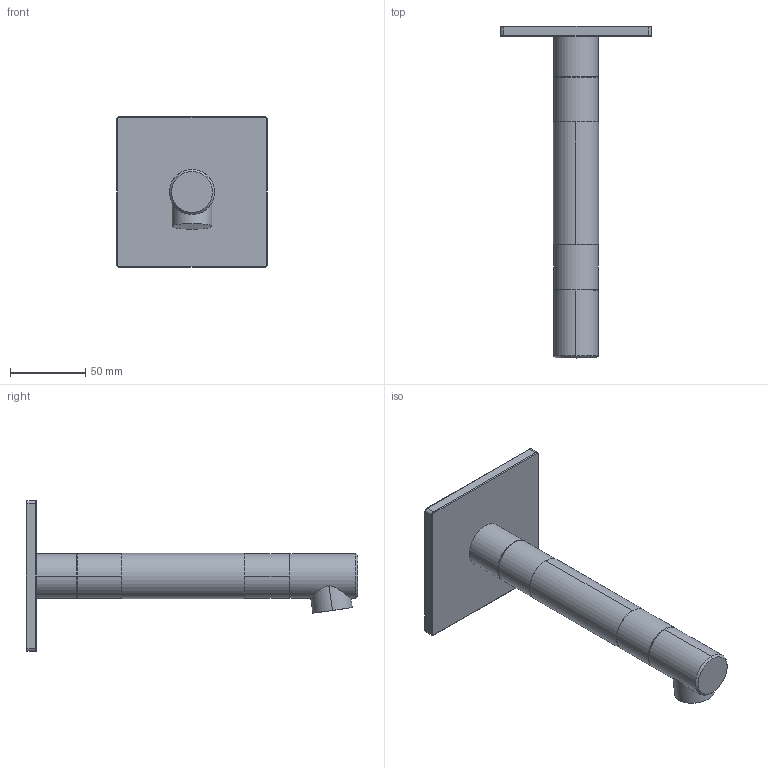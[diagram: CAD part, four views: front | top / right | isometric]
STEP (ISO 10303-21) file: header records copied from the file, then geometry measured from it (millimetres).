
FILE_DESCRIPTION((''),'2;1');
FILE_NAME('BATH_SPOUT-SQUARE_ASM_SW0001','2023-10-16T10:22:57',('YY993'),(''),'CREO PARAMETRIC BY PTC INC, 2022244','CREO PARAMETRIC BY PTC INC, 2022244','');
FILE_SCHEMA(('CONFIG_CONTROL_DESIGN'));
Length unit declared in the file: millimetre
Products named in the file (1): BATH_SPOUT-SQUARE_ASM_SW0001
Bounding box: 100 x 219.8 x 100 mm (x, y, z)
Volume: 222394 mm3; surface area: 43774 mm2
Topology: 1 solids, 1 shells, 61 faces, 135 edges, 82 vertices
Faces by surface type: cylinder 31, plane 16, torus 8, cone 6
Entity records: 1916 total; most frequent: CARTESIAN_POINT 489, DIRECTION 319, ORIENTED_EDGE 270, AXIS2_PLACEMENT_3D 135, EDGE_CURVE 135, VERTEX_POINT 82, CIRCLE 74, EDGE_LOOP 67
